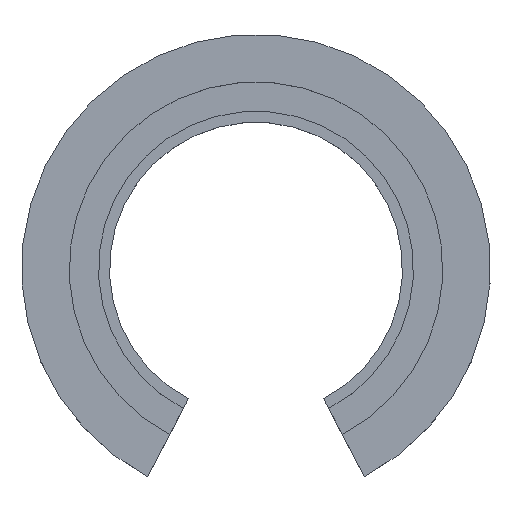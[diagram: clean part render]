
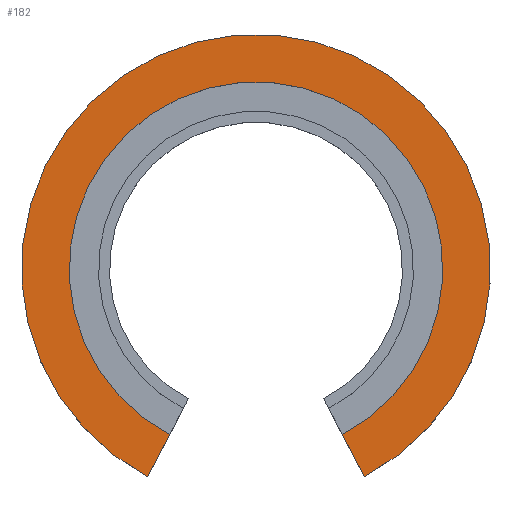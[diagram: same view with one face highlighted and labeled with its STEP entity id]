
A CAD part, top view. The second image highlights one B-rep face of the part: STEP entity #182.
In plain terms, the highlighted planar face has unit normal (0, 0, 1).
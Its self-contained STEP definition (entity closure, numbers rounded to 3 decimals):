
#22=CIRCLE('',#231,12.75);
#23=CIRCLE('',#233,16.);
#36=FACE_OUTER_BOUND('',#46,.T.);
#46=EDGE_LOOP('',(#151,#152,#153,#154));
#52=LINE('',#307,#68);
#66=LINE('',#335,#82);
#68=VECTOR('',#249,10.);
#82=VECTOR('',#265,10.);
#83=VERTEX_POINT('',#303);
#85=VERTEX_POINT('',#306);
#92=VERTEX_POINT('',#321);
#98=VERTEX_POINT('',#333);
#100=EDGE_CURVE('',#85,#83,#52,.T.);
#114=EDGE_CURVE('',#92,#98,#66,.T.);
#118=EDGE_CURVE('',#98,#85,#22,.T.);
#119=EDGE_CURVE('',#83,#92,#23,.T.);
#151=ORIENTED_EDGE('',*,*,#100,.T.);
#152=ORIENTED_EDGE('',*,*,#119,.T.);
#153=ORIENTED_EDGE('',*,*,#114,.T.);
#154=ORIENTED_EDGE('',*,*,#118,.T.);
#174=PLANE('',#232);
#182=ADVANCED_FACE('',(#36),#174,.T.);
#231=AXIS2_PLACEMENT_3D('',#342,#278,#279);
#232=AXIS2_PLACEMENT_3D('',#343,#280,#281);
#233=AXIS2_PLACEMENT_3D('',#344,#282,#283);
#249=DIRECTION('',(0.462,-0.887,0.));
#265=DIRECTION('',(0.462,0.887,0.));
#278=DIRECTION('center_axis',(0.,0.,-1.));
#279=DIRECTION('ref_axis',(-1.,0.,0.));
#280=DIRECTION('center_axis',(0.,0.,1.));
#281=DIRECTION('ref_axis',(1.,0.,0.));
#282=DIRECTION('center_axis',(0.,0.,1.));
#283=DIRECTION('ref_axis',(1.,0.,0.));
#303=CARTESIAN_POINT('',(7.388,-14.192,2.));
#306=CARTESIAN_POINT('',(5.887,-11.309,2.));
#307=CARTESIAN_POINT('',(0.,0.,2.));
#321=CARTESIAN_POINT('',(-7.388,-14.192,2.));
#333=CARTESIAN_POINT('',(-5.887,-11.309,2.));
#335=CARTESIAN_POINT('',(-4.815,-9.249,2.));
#342=CARTESIAN_POINT('Origin',(0.,0.,2.));
#343=CARTESIAN_POINT('Origin',(0.,0.,2.));
#344=CARTESIAN_POINT('Origin',(0.,0.,2.));
